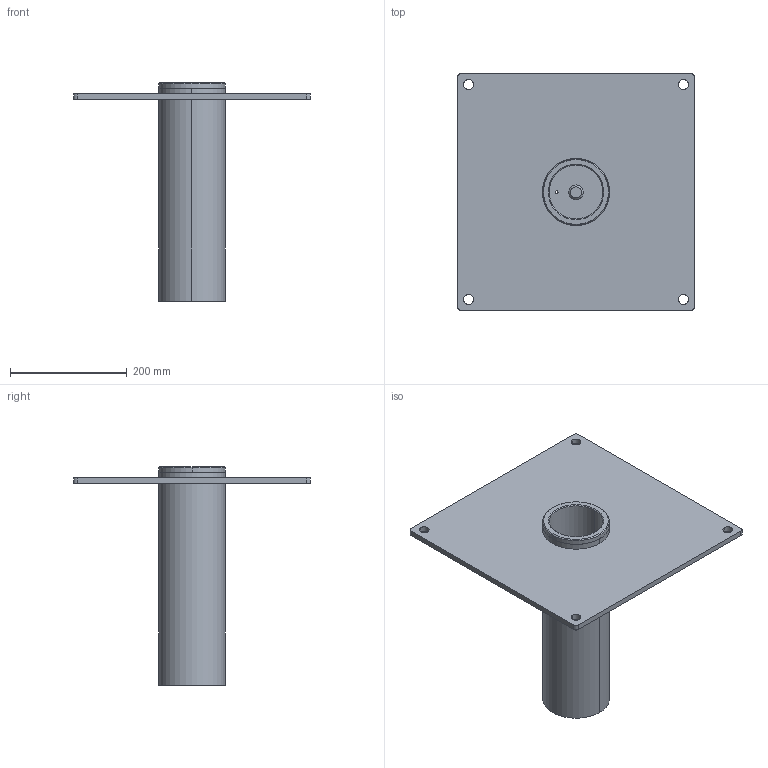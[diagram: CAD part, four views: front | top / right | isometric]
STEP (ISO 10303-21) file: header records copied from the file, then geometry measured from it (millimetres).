
FILE_DESCRIPTION (( 'STEP AP203' ), '1' );
FILE_NAME ('OZSOC1.STEP', '2022-03-02T20:33:37', ( '' ), ( '' ), 'SwSTEP 2.0', 'SolidWorks 2021', '' );
FILE_SCHEMA (( 'CONFIG_CONTROL_DESIGN' ));
Length unit declared in the file: inch
Products named in the file (7): DC10PC8220; DC10PC8100; DC10PC8230; DC10PC8000; DC10PC8210; OZSOC1; DC10PC7250
Assembly tree (6 placements, depth 3):
  OZSOC1
    DC10PC8000
      DC10PC8210
      DC10PC8220
      DC10PC8230
      DC10PC7250
    DC10PC8100
Bounding box: 406.4 x 406.4 x 374.65 mm (x, y, z)
Volume: 2490574.9 mm3; surface area: 656635.4 mm2
Topology: 5 solids, 5 shells, 58 faces, 130 edges, 84 vertices
Faces by surface type: cylinder 34, plane 16, cone 8
Entity records: 2441 total; most frequent: DIRECTION 342, CARTESIAN_POINT 282, ORIENTED_EDGE 260, AXIS2_PLACEMENT_3D 144, EDGE_CURVE 130, VERTEX_POINT 84, EDGE_LOOP 78, CIRCLE 76
